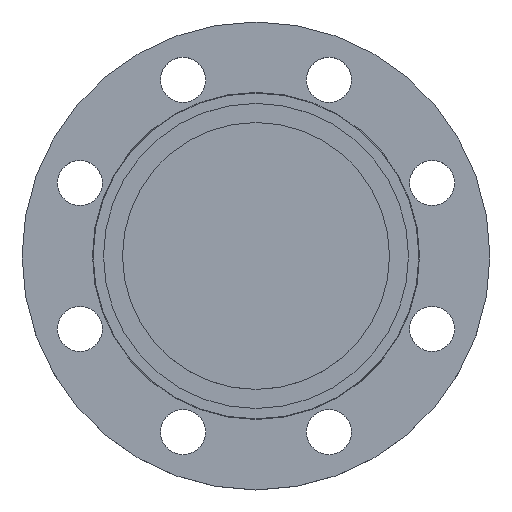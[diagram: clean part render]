
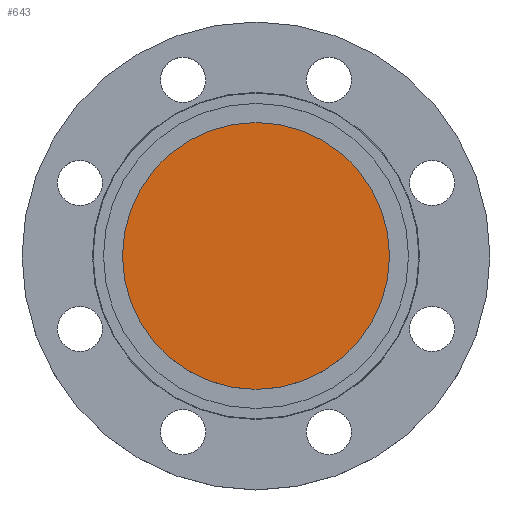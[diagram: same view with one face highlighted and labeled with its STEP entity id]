
A CAD part, top view. The second image highlights one B-rep face of the part: STEP entity #643.
In plain terms, the highlighted planar face has unit normal (0, 0, 1).
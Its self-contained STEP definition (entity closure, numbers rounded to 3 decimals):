
#18 = DIRECTION ( 'NONE',  ( -1., 0., 0. ) ) ;
#21 = DIRECTION ( 'NONE',  ( 0., 0., -1. ) ) ;
#27 = CARTESIAN_POINT ( 'NONE',  ( 0., 0., 0. ) ) ;
#105 = CIRCLE ( 'NONE', #203, 77. ) ;
#178 = EDGE_CURVE ( 'NONE', #1133, #969, #914, .T. ) ;
#203 = AXIS2_PLACEMENT_3D ( 'NONE', #27, #21, #18 ) ;
#267 = AXIS2_PLACEMENT_3D ( 'NONE', #336, #334, #332 ) ;
#332 = DIRECTION ( 'NONE',  ( 1., 0., 0. ) ) ;
#334 = DIRECTION ( 'NONE',  ( 0., 0., 1. ) ) ;
#336 = CARTESIAN_POINT ( 'NONE',  ( 0., 0., 0. ) ) ;
#337 = PLANE ( 'NONE',  #267 ) ;
#338 = FACE_OUTER_BOUND ( 'NONE', #1034, .T. ) ;
#420 = CARTESIAN_POINT ( 'NONE',  ( 77., 0., 0. ) ) ;
#513 = CARTESIAN_POINT ( 'NONE',  ( -77., 0., 0. ) ) ;
#532 = CARTESIAN_POINT ( 'NONE',  ( 0., 0., 0. ) ) ;
#570 = DIRECTION ( 'NONE',  ( -1., 0., 0. ) ) ;
#576 = DIRECTION ( 'NONE',  ( 0., 0., -1. ) ) ;
#636 = ORIENTED_EDGE ( 'NONE', *, *, #936, .F. ) ;
#638 = ORIENTED_EDGE ( 'NONE', *, *, #178, .F. ) ;
#643 = ADVANCED_FACE ( 'NONE', ( #338 ), #337, .T. ) ;
#651 = AXIS2_PLACEMENT_3D ( 'NONE', #532, #576, #570 ) ;
#914 = CIRCLE ( 'NONE', #651, 77. ) ;
#936 = EDGE_CURVE ( 'NONE', #969, #1133, #105, .T. ) ;
#969 = VERTEX_POINT ( 'NONE', #513 ) ;
#1034 = EDGE_LOOP ( 'NONE', ( #636, #638 ) ) ;
#1133 = VERTEX_POINT ( 'NONE', #420 ) ;
